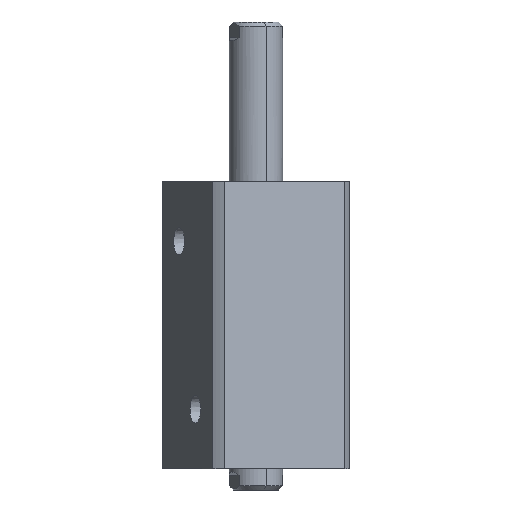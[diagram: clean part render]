
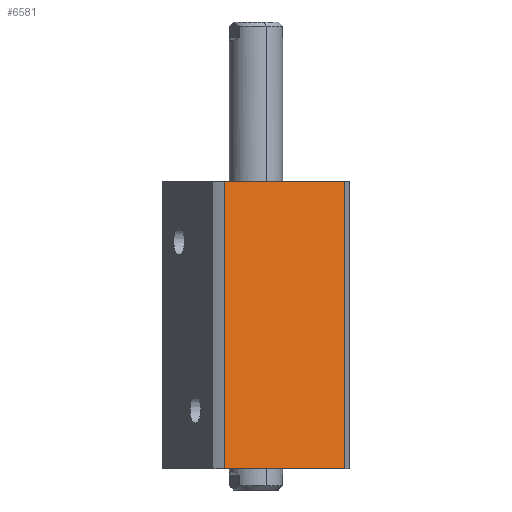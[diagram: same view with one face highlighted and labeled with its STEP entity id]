
A CAD part, front view. The second image highlights one B-rep face of the part: STEP entity #6581.
In plain terms, the highlighted planar face has unit normal (0.383, -0.924, 0) as drawn and (1, 0, 0) by its records, which use the part's own axes.
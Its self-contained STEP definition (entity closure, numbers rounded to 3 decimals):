
#202 = DIRECTION ( 'NONE',  ( 0., 0., -1. ) ) ;
#290 = ORIENTED_EDGE ( 'NONE', *, *, #5668, .F. ) ;
#811 = DIRECTION ( 'NONE',  ( 0., -1., 0. ) ) ;
#1123 = LINE ( 'NONE', #5471, #4825 ) ;
#1641 = CARTESIAN_POINT ( 'NONE',  ( 35., -30.615, -165. ) ) ;
#1646 = ORIENTED_EDGE ( 'NONE', *, *, #7564, .F. ) ;
#1692 = FACE_OUTER_BOUND ( 'NONE', #5879, .T. ) ;
#1983 = VERTEX_POINT ( 'NONE', #6426 ) ;
#2250 = CARTESIAN_POINT ( 'NONE',  ( 35., 30.615, 0. ) ) ;
#2270 = EDGE_CURVE ( 'NONE', #5607, #10030, #5606, .T. ) ;
#2933 = VECTOR ( 'NONE', #4803, 1000. ) ;
#4232 = CARTESIAN_POINT ( 'NONE',  ( 35., 30.615, -165. ) ) ;
#4659 = CARTESIAN_POINT ( 'NONE',  ( 35., 35., 0. ) ) ;
#4672 = CARTESIAN_POINT ( 'NONE',  ( 35., 35., 135. ) ) ;
#4803 = DIRECTION ( 'NONE',  ( 0., 0., 1. ) ) ;
#4825 = VECTOR ( 'NONE', #7883, 1000. ) ;
#5471 = CARTESIAN_POINT ( 'NONE',  ( 35., 35., 135. ) ) ;
#5545 = DIRECTION ( 'NONE',  ( -1., 0., 0. ) ) ;
#5606 = LINE ( 'NONE', #4232, #9942 ) ;
#5607 = VERTEX_POINT ( 'NONE', #9571 ) ;
#5668 = EDGE_CURVE ( 'NONE', #1983, #8114, #8838, .T. ) ;
#5879 = EDGE_LOOP ( 'NONE', ( #290, #6363, #6117, #1646 ) ) ;
#5897 = CARTESIAN_POINT ( 'NONE',  ( 35., -30.615, 135. ) ) ;
#6117 = ORIENTED_EDGE ( 'NONE', *, *, #2270, .F. ) ;
#6363 = ORIENTED_EDGE ( 'NONE', *, *, #6991, .T. ) ;
#6426 = CARTESIAN_POINT ( 'NONE',  ( 35., -30.615, 0. ) ) ;
#6581 = ADVANCED_FACE ( 'NONE', ( #1692 ), #8782, .F. ) ;
#6730 = AXIS2_PLACEMENT_3D ( 'NONE', #4672, #5545, #811 ) ;
#6851 = VECTOR ( 'NONE', #10339, 1000. ) ;
#6991 = EDGE_CURVE ( 'NONE', #1983, #10030, #9021, .T. ) ;
#7564 = EDGE_CURVE ( 'NONE', #8114, #5607, #1123, .T. ) ;
#7883 = DIRECTION ( 'NONE',  ( 0., 1., 0. ) ) ;
#8114 = VERTEX_POINT ( 'NONE', #5897 ) ;
#8782 = PLANE ( 'NONE',  #6730 ) ;
#8838 = LINE ( 'NONE', #1641, #2933 ) ;
#9021 = LINE ( 'NONE', #4659, #6851 ) ;
#9571 = CARTESIAN_POINT ( 'NONE',  ( 35., 30.615, 135. ) ) ;
#9942 = VECTOR ( 'NONE', #202, 1000. ) ;
#10030 = VERTEX_POINT ( 'NONE', #2250 ) ;
#10339 = DIRECTION ( 'NONE',  ( 0., 1., 0. ) ) ;
